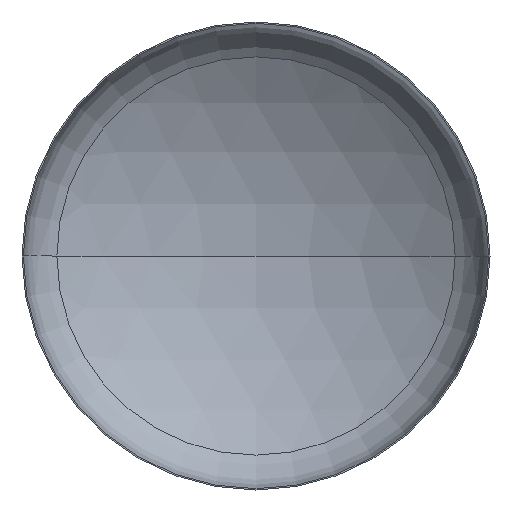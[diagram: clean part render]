
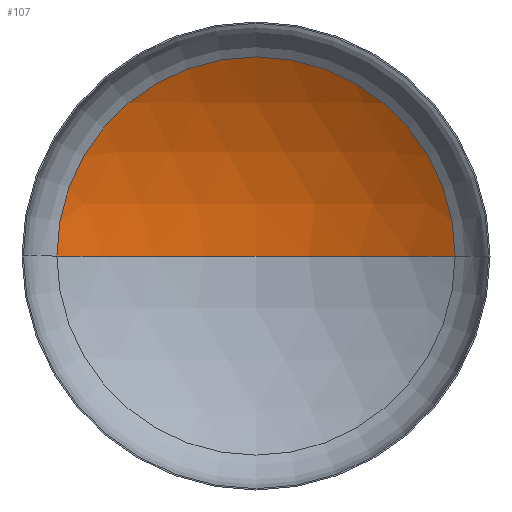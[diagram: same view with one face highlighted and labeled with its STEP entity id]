
A CAD part, front view. The second image highlights one B-rep face of the part: STEP entity #107.
In plain terms, the highlighted spherical face has radius 2560 mm.
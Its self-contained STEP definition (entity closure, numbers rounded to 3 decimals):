
#7 = EDGE_LOOP ( 'NONE', ( #238, #76, #12 ) ) ;
#12 = ORIENTED_EDGE ( 'NONE', *, *, #216, .T. ) ;
#20 = VERTEX_POINT ( 'NONE', #280 ) ;
#53 = VERTEX_POINT ( 'NONE', #246 ) ;
#76 = ORIENTED_EDGE ( 'NONE', *, *, #219, .T. ) ;
#77 = VERTEX_POINT ( 'NONE', #232 ) ;
#107 = ADVANCED_FACE ( 'NONE', ( #395 ), #113, .F. ) ;
#113 = SPHERICAL_SURFACE ( 'NONE', #178, 2560. ) ;
#116 = AXIS2_PLACEMENT_3D ( 'NONE', #163, #161, #159 ) ;
#126 = AXIS2_PLACEMENT_3D ( 'NONE', #270, #269, #245 ) ;
#138 = AXIS2_PLACEMENT_3D ( 'NONE', #169, #195, #197 ) ;
#159 = DIRECTION ( 'NONE',  ( 1., 0., 0. ) ) ;
#161 = DIRECTION ( 'NONE',  ( 0., 0., 1. ) ) ;
#163 = CARTESIAN_POINT ( 'NONE',  ( 0., -1722.912, 0. ) ) ;
#169 = CARTESIAN_POINT ( 'NONE',  ( 0., 444.94, 0. ) ) ;
#178 = AXIS2_PLACEMENT_3D ( 'NONE', #320, #317, #316 ) ;
#195 = DIRECTION ( 'NONE',  ( 0., -1., 0. ) ) ;
#197 = DIRECTION ( 'NONE',  ( 1., 0., 0. ) ) ;
#216 = EDGE_CURVE ( 'NONE', #20, #77, #377, .T. ) ;
#219 = EDGE_CURVE ( 'NONE', #53, #20, #373, .T. ) ;
#222 = EDGE_CURVE ( 'NONE', #53, #77, #310, .T. ) ;
#232 = CARTESIAN_POINT ( 'NONE',  ( -1361.623, 444.94, 0. ) ) ;
#238 = ORIENTED_EDGE ( 'NONE', *, *, #222, .F. ) ;
#245 = DIRECTION ( 'NONE',  ( -1., 0., 0. ) ) ;
#246 = CARTESIAN_POINT ( 'NONE',  ( 0., 837.088, 0. ) ) ;
#269 = DIRECTION ( 'NONE',  ( 0., 0., -1. ) ) ;
#270 = CARTESIAN_POINT ( 'NONE',  ( 0., -1722.912, 0. ) ) ;
#280 = CARTESIAN_POINT ( 'NONE',  ( 1361.623, 444.94, 0. ) ) ;
#310 = CIRCLE ( 'NONE', #116, 2560. ) ;
#316 = DIRECTION ( 'NONE',  ( -1., 0., 0. ) ) ;
#317 = DIRECTION ( 'NONE',  ( 0., 0., -1. ) ) ;
#320 = CARTESIAN_POINT ( 'NONE',  ( 0., -1722.912, 0. ) ) ;
#373 = CIRCLE ( 'NONE', #126, 2560. ) ;
#377 = CIRCLE ( 'NONE', #138, 1361.623 ) ;
#395 = FACE_OUTER_BOUND ( 'NONE', #7, .T. ) ;
